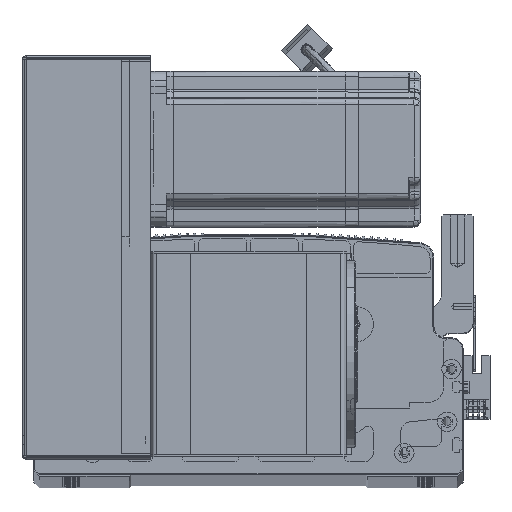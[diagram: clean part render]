
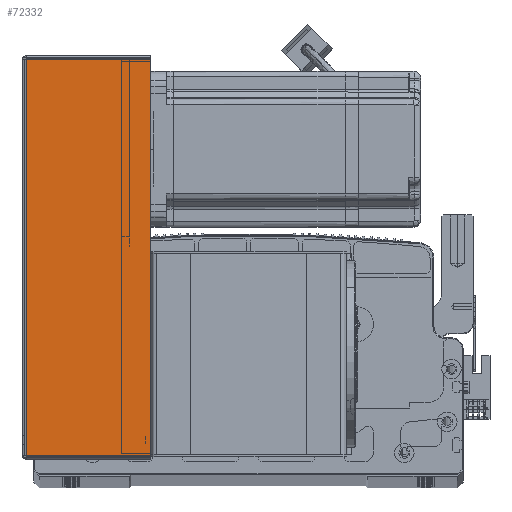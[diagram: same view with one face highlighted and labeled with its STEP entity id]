
A CAD part, top view. The second image highlights one B-rep face of the part: STEP entity #72332.
In plain terms, the highlighted planar face has unit normal (0, 0, 1) as drawn and (0, 1, 0) by its records, which use the part's own axes.
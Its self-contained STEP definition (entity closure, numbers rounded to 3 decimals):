
#1223 = ORIENTED_EDGE ( 'NONE', *, *, #13689, .T. ) ;
#4467 = PLANE ( 'NONE',  #67414 ) ;
#13689 = EDGE_CURVE ( 'NONE', #79839, #26811, #19958, .T. ) ;
#14869 = EDGE_CURVE ( 'NONE', #79839, #60320, #28265, .T. ) ;
#15129 = VERTEX_POINT ( 'NONE', #33038 ) ;
#16259 = DIRECTION ( 'NONE',  ( 0., 0., -1. ) ) ;
#17767 = DIRECTION ( 'NONE',  ( 1., 0., 0. ) ) ;
#17915 = ORIENTED_EDGE ( 'NONE', *, *, #68958, .T. ) ;
#19958 = LINE ( 'NONE', #49463, #63957 ) ;
#26811 = VERTEX_POINT ( 'NONE', #40237 ) ;
#28265 = LINE ( 'NONE', #76979, #92840 ) ;
#28610 = DIRECTION ( 'NONE',  ( 1., 0., 0. ) ) ;
#33038 = CARTESIAN_POINT ( 'NONE',  ( 64.5, 107.5, -203.293 ) ) ;
#33849 = LINE ( 'NONE', #53083, #46290 ) ;
#34037 = VECTOR ( 'NONE', #28610, 1000. ) ;
#40237 = CARTESIAN_POINT ( 'NONE',  ( 64.5, 107.5, -0.707 ) ) ;
#41493 = FACE_OUTER_BOUND ( 'NONE', #77771, .T. ) ;
#46290 = VECTOR ( 'NONE', #90714, 1000. ) ;
#48808 = CARTESIAN_POINT ( 'NONE',  ( 0.737, 107.5, -0.707 ) ) ;
#49463 = CARTESIAN_POINT ( 'NONE',  ( 0., 107.5, -0.707 ) ) ;
#52266 = ORIENTED_EDGE ( 'NONE', *, *, #67702, .F. ) ;
#53083 = CARTESIAN_POINT ( 'NONE',  ( 64.5, 107.5, -204. ) ) ;
#58753 = CARTESIAN_POINT ( 'NONE',  ( 0.737, 107.5, -203.293 ) ) ;
#60320 = VERTEX_POINT ( 'NONE', #58753 ) ;
#63957 = VECTOR ( 'NONE', #87516, 1000. ) ;
#66949 = ORIENTED_EDGE ( 'NONE', *, *, #14869, .F. ) ;
#67414 = AXIS2_PLACEMENT_3D ( 'NONE', #82493, #90330, #17767 ) ;
#67702 = EDGE_CURVE ( 'NONE', #60320, #15129, #71898, .T. ) ;
#68958 = EDGE_CURVE ( 'NONE', #26811, #15129, #33849, .T. ) ;
#71898 = LINE ( 'NONE', #82419, #34037 ) ;
#72332 = ADVANCED_FACE ( 'NONE', ( #41493 ), #4467, .F. ) ;
#76979 = CARTESIAN_POINT ( 'NONE',  ( 0.737, 107.5, 0. ) ) ;
#77771 = EDGE_LOOP ( 'NONE', ( #66949, #1223, #17915, #52266 ) ) ;
#79839 = VERTEX_POINT ( 'NONE', #48808 ) ;
#82419 = CARTESIAN_POINT ( 'NONE',  ( 0., 107.5, -203.293 ) ) ;
#82493 = CARTESIAN_POINT ( 'NONE',  ( 0., 107.5, 0. ) ) ;
#87516 = DIRECTION ( 'NONE',  ( 1., 0., 0. ) ) ;
#90330 = DIRECTION ( 'NONE',  ( 0., -1., 0. ) ) ;
#90714 = DIRECTION ( 'NONE',  ( 0., 0., -1. ) ) ;
#92840 = VECTOR ( 'NONE', #16259, 1000. ) ;
